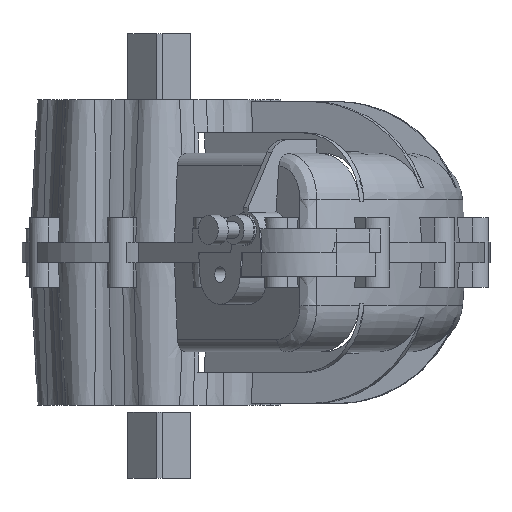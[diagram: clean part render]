
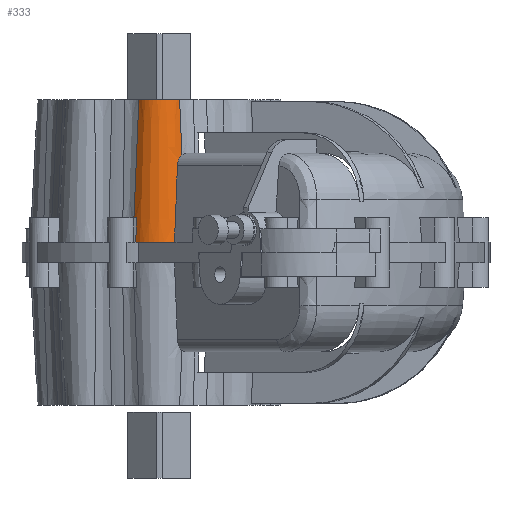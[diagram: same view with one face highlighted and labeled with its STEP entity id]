
A CAD part, left-side view. The second image highlights one B-rep face of the part: STEP entity #333.
In plain terms, the highlighted conical face has half-angle 3 degrees and reference radius 30 mm.
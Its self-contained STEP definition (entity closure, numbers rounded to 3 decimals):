
#333 = ADVANCED_FACE( '', ( #1338 ), #1339, .T. );
#1338 = FACE_OUTER_BOUND( '', #3489, .T. );
#1339 = CONICAL_SURFACE( '', #3490, 30., 0.052 );
#3489 = EDGE_LOOP( '', ( #6797, #6798, #6799, #6800, #6801, #6802, #6803, #6804 ) );
#3490 = AXIS2_PLACEMENT_3D( '', #6805, #6806, #6807 );
#6797 = ORIENTED_EDGE( '', *, *, #11202, .F. );
#6798 = ORIENTED_EDGE( '', *, *, #11829, .T. );
#6799 = ORIENTED_EDGE( '', *, *, #11830, .T. );
#6800 = ORIENTED_EDGE( '', *, *, #11831, .T. );
#6801 = ORIENTED_EDGE( '', *, *, #11832, .T. );
#6802 = ORIENTED_EDGE( '', *, *, #11833, .T. );
#6803 = ORIENTED_EDGE( '', *, *, #11807, .T. );
#6804 = ORIENTED_EDGE( '', *, *, #11821, .F. );
#6805 = CARTESIAN_POINT( '', ( -113., 0., 188. ) );
#6806 = DIRECTION( '', ( 0., 0., -1. ) );
#6807 = DIRECTION( '', ( 1., 0., 0. ) );
#11202 = EDGE_CURVE( '', #13153, #13155, #13156, .F. );
#11807 = EDGE_CURVE( '', #14242, #14248, #14250, .T. );
#11821 = EDGE_CURVE( '', #13155, #14248, #14275, .T. );
#11829 = EDGE_CURVE( '', #13153, #14287, #14288, .T. );
#11830 = EDGE_CURVE( '', #14287, #14289, #14290, .F. );
#11831 = EDGE_CURVE( '', #14289, #14291, #14292, .T. );
#11832 = EDGE_CURVE( '', #14291, #14293, #14294, .T. );
#11833 = EDGE_CURVE( '', #14293, #14242, #14295, .T. );
#13153 = VERTEX_POINT( '', #16359 );
#13155 = VERTEX_POINT( '', #16361 );
#13156 = CIRCLE( '', #16362, 30.21 );
#14242 = VERTEX_POINT( '', #18005 );
#14248 = VERTEX_POINT( '', #18013 );
#14250 = B_SPLINE_CURVE_WITH_KNOTS( '', 3, ( #18022, #18023, #18024, #18025, #18026, #18027, #18028, #18029, #18030, #18031, #18032, #18033, #18034, #18035, #18036, #18037 ), .UNSPECIFIED., .F., .F., ( 4, 2, 2, 2, 2, 2, 2, 4 ), ( 0., 0.004, 0.005, 0.006, 0.008, 0.01, 0.012, 0.016 ), .UNSPECIFIED. );
#14275 = LINE( '', #18247, #18248 );
#14287 = VERTEX_POINT( '', #18268 );
#14288 = LINE( '', #18269, #18270 );
#14289 = VERTEX_POINT( '', #18271 );
#14290 = CIRCLE( '', #18272, 37.494 );
#14291 = VERTEX_POINT( '', #18273 );
#14292 = B_SPLINE_CURVE_WITH_KNOTS( '', 3, ( #18274, #18275, #18276, #18277 ), .UNSPECIFIED., .F., .F., ( 4, 4 ), ( 0., 0.029 ), .UNSPECIFIED. );
#14293 = VERTEX_POINT( '', #18278 );
#14294 = CIRCLE( '', #18279, 39.014 );
#14295 = ELLIPSE( '', #18280, 588.19, 41.049 );
#16359 = CARTESIAN_POINT( '', ( -131.358, 23.992, 184. ) );
#16361 = CARTESIAN_POINT( '', ( -131.358, -23.992, 184. ) );
#16362 = AXIS2_PLACEMENT_3D( '', #23533, #23534, #23535 );
#18005 = CARTESIAN_POINT( '', ( -139.8, -21.37, 106.394 ) );
#18013 = CARTESIAN_POINT( '', ( -133.428, -26.696, 119.021 ) );
#18022 = CARTESIAN_POINT( '', ( -139.8, -21.37, 106.394 ) );
#18023 = CARTESIAN_POINT( '', ( -139.677, -21.414, 107.712 ) );
#18024 = CARTESIAN_POINT( '', ( -139.456, -21.583, 108.989 ) );
#18025 = CARTESIAN_POINT( '', ( -139.053, -21.939, 110.535 ) );
#18026 = CARTESIAN_POINT( '', ( -138.966, -22.017, 110.842 ) );
#18027 = CARTESIAN_POINT( '', ( -138.778, -22.188, 111.45 ) );
#18028 = CARTESIAN_POINT( '', ( -138.677, -22.281, 111.752 ) );
#18029 = CARTESIAN_POINT( '', ( -138.356, -22.577, 112.639 ) );
#18030 = CARTESIAN_POINT( '', ( -138.118, -22.798, 113.207 ) );
#18031 = CARTESIAN_POINT( '', ( -137.591, -23.283, 114.299 ) );
#18032 = CARTESIAN_POINT( '', ( -137.302, -23.546, 114.822 ) );
#18033 = CARTESIAN_POINT( '', ( -136.667, -24.111, 115.823 ) );
#18034 = CARTESIAN_POINT( '', ( -136.319, -24.414, 116.303 ) );
#18035 = CARTESIAN_POINT( '', ( -135.208, -25.35, 117.635 ) );
#18036 = CARTESIAN_POINT( '', ( -134.374, -26.014, 118.393 ) );
#18037 = CARTESIAN_POINT( '', ( -133.428, -26.696, 119.021 ) );
#18247 = CARTESIAN_POINT( '', ( -131.231, -23.825, 188. ) );
#18248 = VECTOR( '', #24685, 1000. );
#18268 = CARTESIAN_POINT( '', ( -135.785, 29.777, 45. ) );
#18269 = CARTESIAN_POINT( '', ( -131.231, 23.825, 188. ) );
#18270 = VECTOR( '', #24697, 1000. );
#18271 = CARTESIAN_POINT( '', ( -139.037, 26.979, 45. ) );
#18272 = AXIS2_PLACEMENT_3D( '', #24698, #24699, #24700 );
#18273 = CARTESIAN_POINT( '', ( -140.678, 27.496, 16. ) );
#18274 = CARTESIAN_POINT( '', ( -139.037, 26.979, 45. ) );
#18275 = CARTESIAN_POINT( '', ( -139.587, 27.153, 35.334 ) );
#18276 = CARTESIAN_POINT( '', ( -140.134, 27.325, 25.667 ) );
#18277 = CARTESIAN_POINT( '', ( -140.678, 27.496, 16. ) );
#18278 = CARTESIAN_POINT( '', ( -147.683, -17.867, 16. ) );
#18279 = AXIS2_PLACEMENT_3D( '', #24701, #24702, #24703 );
#18280 = AXIS2_PLACEMENT_3D( '', #24704, #24705, #24706 );
#23533 = CARTESIAN_POINT( '', ( -113., 0., 184. ) );
#23534 = DIRECTION( '', ( 0., 0., -1. ) );
#23535 = DIRECTION( '', ( -1., 0., 0. ) );
#24685 = DIRECTION( '', ( -0.032, -0.042, -0.999 ) );
#24697 = DIRECTION( '', ( -0.032, 0.042, -0.999 ) );
#24698 = CARTESIAN_POINT( '', ( -113., 0., 45. ) );
#24699 = DIRECTION( '', ( 0., 0., -1. ) );
#24700 = DIRECTION( '', ( -1., 0., 0. ) );
#24701 = CARTESIAN_POINT( '', ( -113., 0., 16. ) );
#24702 = DIRECTION( '', ( 0., 0., 1. ) );
#24703 = DIRECTION( '', ( 1., 0., 0. ) );
#24704 = CARTESIAN_POINT( '', ( -133.746, 22.641, -217.744 ) );
#24705 = DIRECTION( '', ( -0.673, 0.734, 0.087 ) );
#24706 = DIRECTION( '', ( -0.059, 0.064, -0.996 ) );
